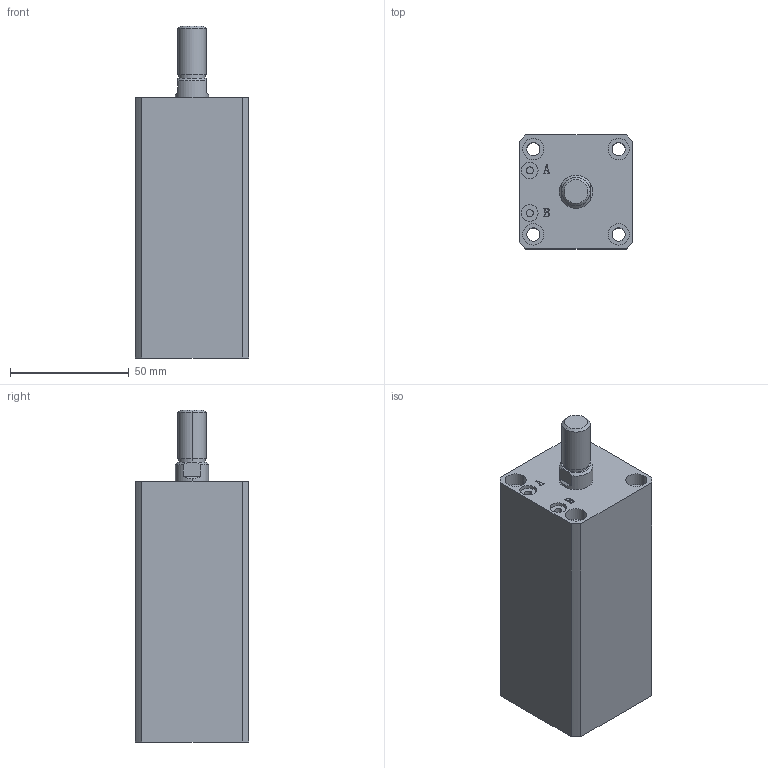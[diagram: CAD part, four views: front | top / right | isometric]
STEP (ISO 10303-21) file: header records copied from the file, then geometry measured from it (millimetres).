
FILE_DESCRIPTION (( 'STEP AP203' ), '1' );
FILE_NAME ('HTB-SDMA25-65W.STEP', '2019-10-07T11:05:54', ( '微软用户' ), ( '微软中国' ), 'SwSTEP 2.0', 'SolidWorks 2012', '' );
FILE_SCHEMA (( 'CONFIG_CONTROL_DESIGN' ));
Length unit declared in the file: millimetre
Products named in the file (3): HTB-SDMA25-65W; HTB-SDMA25-65W活塞杆; HTB-SDMA25-65掛极
Assembly tree (2 placements, depth 2):
  HTB-SDMA25-65W
    HTB-SDMA25-65掛极
    HTB-SDMA25-65W活塞杆
Bounding box: 48 x 48 x 140 mm (x, y, z)
Volume: 220601.4 mm3; surface area: 48341.8 mm2
Topology: 2 solids, 2 shells, 141 faces, 335 edges, 220 vertices
Faces by surface type: plane 67, cylinder 48, bspline 16, torus 6, cone 4
Entity records: 5178 total; most frequent: CARTESIAN_POINT 1609, ORIENTED_EDGE 670, DIRECTION 667, EDGE_CURVE 335, AXIS2_PLACEMENT_3D 242, VERTEX_POINT 220, LINE 183, VECTOR 183
